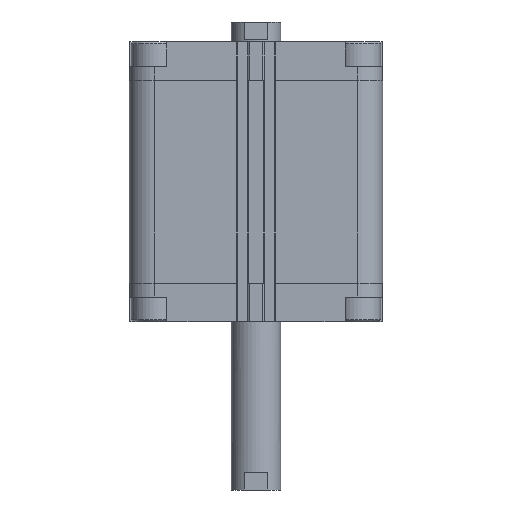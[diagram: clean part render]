
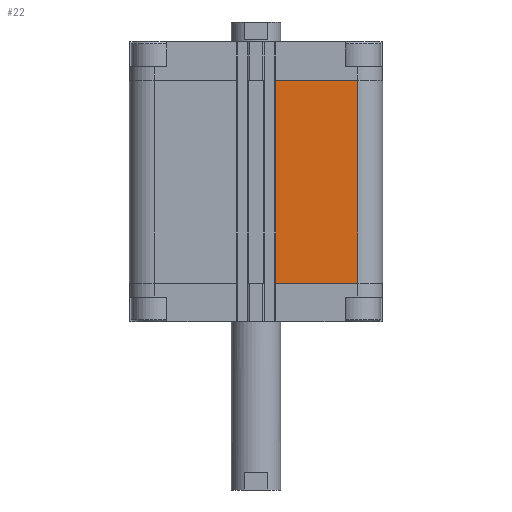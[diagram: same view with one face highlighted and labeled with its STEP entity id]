
A CAD part, front view. The second image highlights one B-rep face of the part: STEP entity #22.
In plain terms, the highlighted planar face has unit normal (0, -1, 0).
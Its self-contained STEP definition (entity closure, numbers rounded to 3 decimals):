
#22 = ADVANCED_FACE ( 'NONE', ( #9648 ), #1044, .T. ) ;
#365 = LINE ( 'NONE', #20045, #9089 ) ;
#370 = DIRECTION ( 'NONE',  ( -1., 0., 0. ) ) ;
#395 = CARTESIAN_POINT ( 'NONE',  ( 51.5, -64., -19.5 ) ) ;
#1044 = PLANE ( 'NONE',  #21232 ) ;
#2144 = VECTOR ( 'NONE', #17861, 1000. ) ;
#2698 = VERTEX_POINT ( 'NONE', #7388 ) ;
#4270 = VERTEX_POINT ( 'NONE', #18903 ) ;
#4435 = DIRECTION ( 'NONE',  ( 1., 0., 0. ) ) ;
#5332 = DIRECTION ( 'NONE',  ( 1., 0., 0. ) ) ;
#6127 = ORIENTED_EDGE ( 'NONE', *, *, #20526, .T. ) ;
#7388 = CARTESIAN_POINT ( 'NONE',  ( 9.95, -64., -19.5 ) ) ;
#7611 = DIRECTION ( 'NONE',  ( 0., -1., 0. ) ) ;
#8009 = EDGE_LOOP ( 'NONE', ( #10944, #11113, #18672, #6127 ) ) ;
#8047 = VECTOR ( 'NONE', #18495, 1000. ) ;
#8598 = LINE ( 'NONE', #11944, #8047 ) ;
#8877 = VERTEX_POINT ( 'NONE', #395 ) ;
#9089 = VECTOR ( 'NONE', #5332, 1000. ) ;
#9361 = VERTEX_POINT ( 'NONE', #17142 ) ;
#9467 = CARTESIAN_POINT ( 'NONE',  ( 51.5, -64., -122. ) ) ;
#9648 = FACE_OUTER_BOUND ( 'NONE', #8009, .T. ) ;
#10944 = ORIENTED_EDGE ( 'NONE', *, *, #17001, .F. ) ;
#11113 = ORIENTED_EDGE ( 'NONE', *, *, #11210, .F. ) ;
#11186 = VECTOR ( 'NONE', #4435, 1000. ) ;
#11210 = EDGE_CURVE ( 'NONE', #9361, #2698, #8598, .T. ) ;
#11944 = CARTESIAN_POINT ( 'NONE',  ( 9.95, -64., -122. ) ) ;
#12475 = EDGE_CURVE ( 'NONE', #9361, #4270, #14543, .T. ) ;
#14543 = LINE ( 'NONE', #17774, #11186 ) ;
#14609 = CARTESIAN_POINT ( 'NONE',  ( 9.95, -64., -122. ) ) ;
#16039 = LINE ( 'NONE', #9467, #2144 ) ;
#17001 = EDGE_CURVE ( 'NONE', #2698, #8877, #365, .T. ) ;
#17142 = CARTESIAN_POINT ( 'NONE',  ( 9.95, -64., -122. ) ) ;
#17774 = CARTESIAN_POINT ( 'NONE',  ( 9.95, -64., -122. ) ) ;
#17861 = DIRECTION ( 'NONE',  ( 0., 0., 1. ) ) ;
#18495 = DIRECTION ( 'NONE',  ( 0., 0., 1. ) ) ;
#18672 = ORIENTED_EDGE ( 'NONE', *, *, #12475, .T. ) ;
#18903 = CARTESIAN_POINT ( 'NONE',  ( 51.5, -64., -122. ) ) ;
#20045 = CARTESIAN_POINT ( 'NONE',  ( 9.95, -64., -19.5 ) ) ;
#20526 = EDGE_CURVE ( 'NONE', #4270, #8877, #16039, .T. ) ;
#21232 = AXIS2_PLACEMENT_3D ( 'NONE', #14609, #7611, #370 ) ;
